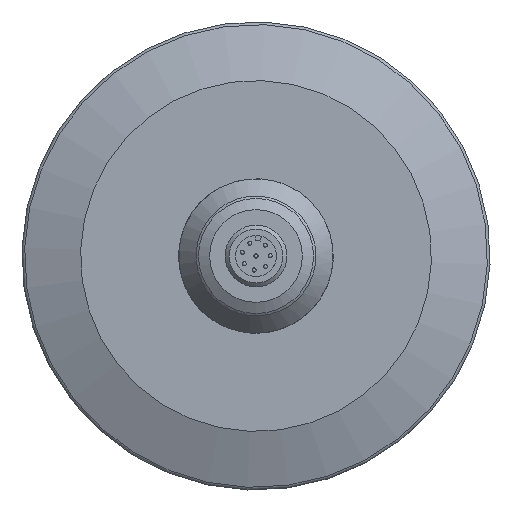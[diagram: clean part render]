
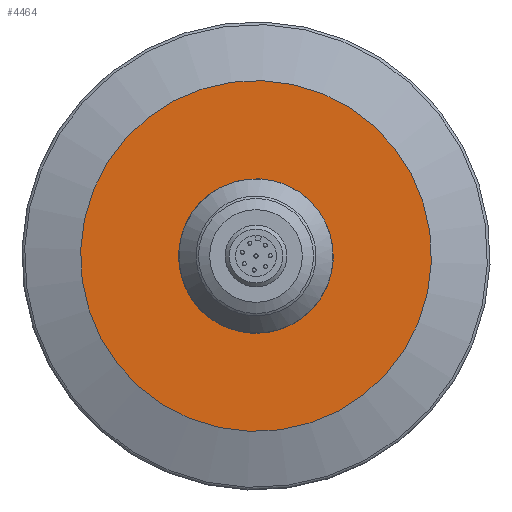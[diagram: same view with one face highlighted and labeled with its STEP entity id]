
A CAD part, front view. The second image highlights one B-rep face of the part: STEP entity #4464.
In plain terms, the highlighted planar face has unit normal (0, -1, 0).
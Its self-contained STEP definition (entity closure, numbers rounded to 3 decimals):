
#652=PLANE('',#4687);
#722=ORIENTED_EDGE('',*,*,#1614,.T.);
#723=ORIENTED_EDGE('',*,*,#1613,.F.);
#1613=EDGE_CURVE('',#2064,#2064,#2372,.T.);
#1614=EDGE_CURVE('',#2065,#2065,#2373,.F.);
#2064=VERTEX_POINT('',#5487);
#2065=VERTEX_POINT('',#5490);
#2372=CIRCLE('',#4686,34.098);
#2373=CIRCLE('',#4688,15.);
#2483=EDGE_LOOP('',(#722));
#2484=EDGE_LOOP('',(#723));
#2750=FACE_BOUND('',#2483,.T.);
#2751=FACE_BOUND('',#2484,.T.);
#4464=ADVANCED_FACE('',(#2750,#2751),#652,.T.);
#4686=AXIS2_PLACEMENT_3D('',#5486,#4927,#4928);
#4687=AXIS2_PLACEMENT_3D('',#5488,#4929,#4930);
#4688=AXIS2_PLACEMENT_3D('',#5489,#4931,#4932);
#4927=DIRECTION('',(0.,1.,0.));
#4928=DIRECTION('',(0.99,0.,0.138));
#4929=DIRECTION('',(0.,-1.,0.));
#4930=DIRECTION('',(-0.99,0.,-0.138));
#4931=DIRECTION('',(0.,-1.,0.));
#4932=DIRECTION('',(0.,0.,-1.));
#5486=CARTESIAN_POINT('',(0.,-0.094,0.));
#5487=CARTESIAN_POINT('',(33.772,-0.094,4.703));
#5488=CARTESIAN_POINT('',(16.954,-0.094,2.361));
#5489=CARTESIAN_POINT('',(0.,-0.094,0.));
#5490=CARTESIAN_POINT('',(0.,-0.094,-15.));
